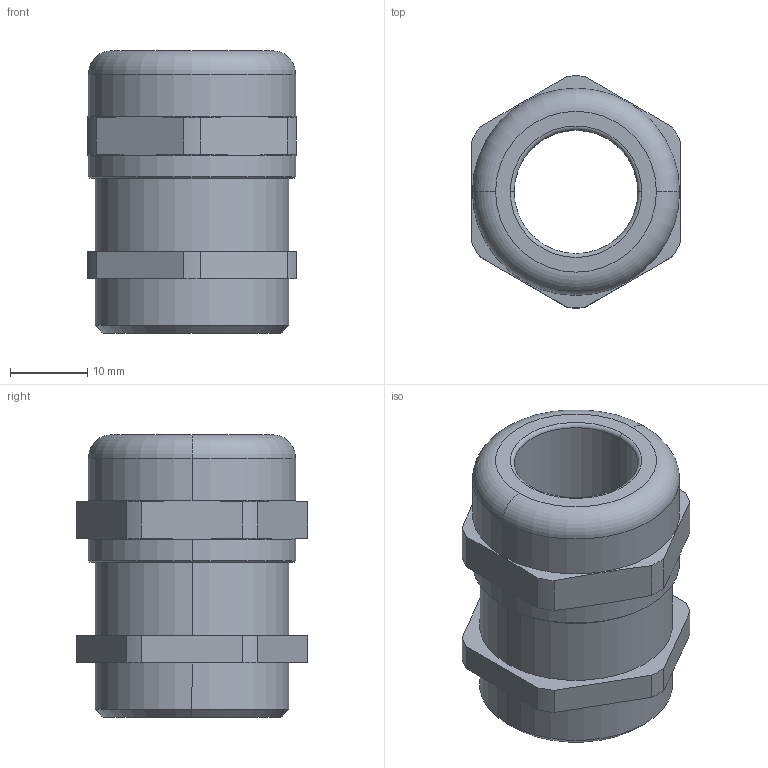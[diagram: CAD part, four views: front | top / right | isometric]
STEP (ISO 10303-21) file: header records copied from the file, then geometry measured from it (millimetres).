
FILE_DESCRIPTION (( 'STEP AP203' ), '1' );
FILE_NAME ('50.625 M.STEP', '2005-10-05T06:50:04', ( ' ' ), ( '' ), 'SwSTEP 2.0', 'SolidWorks 2005143', '' );
FILE_SCHEMA (( 'CONFIG_CONTROL_DESIGN' ));
Length unit declared in the file: millimetre
Products named in the file (1): 50.625 M
Bounding box: 27 x 29.99 x 36.5 mm (x, y, z)
Volume: 12378.2 mm3; surface area: 5814.5 mm2
Topology: 1 solids, 1 shells, 88 faces, 228 edges, 148 vertices
Faces by surface type: plane 54, cylinder 22, cone 8, torus 4
Entity records: 2777 total; most frequent: CARTESIAN_POINT 521, ORIENTED_EDGE 456, DIRECTION 446, EDGE_CURVE 228, VECTOR 156, LINE 156, VERTEX_POINT 148, AXIS2_PLACEMENT_3D 145
